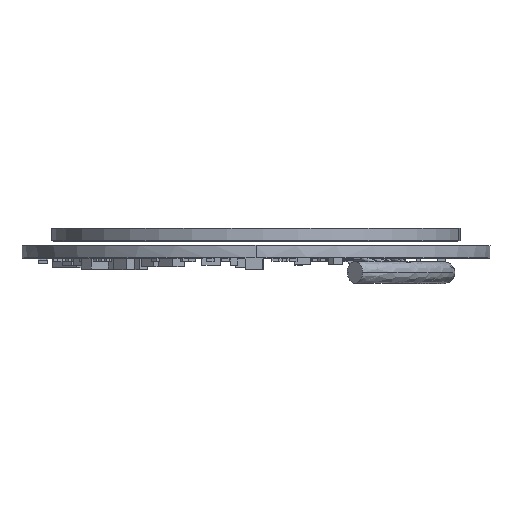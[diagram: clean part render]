
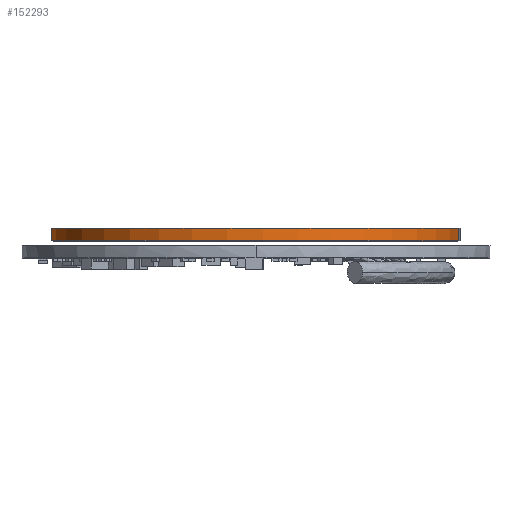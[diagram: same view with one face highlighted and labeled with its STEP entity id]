
A CAD part, top view. The second image highlights one B-rep face of the part: STEP entity #152293.
In plain terms, the highlighted cylindrical face has radius 26.1 mm (diameter 52.2 mm), a partial arc.
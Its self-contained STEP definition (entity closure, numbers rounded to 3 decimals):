
#8117 = DIRECTION ( 'NONE',  ( 0., -1., 0. ) ) ;
#8213 = CARTESIAN_POINT ( 'NONE',  ( 0., 1.57, 0. ) ) ;
#14639 = CARTESIAN_POINT ( 'NONE',  ( 0., 0., 26.1 ) ) ;
#19078 = AXIS2_PLACEMENT_3D ( 'NONE', #8213, #150747, #102194 ) ;
#19419 = DIRECTION ( 'NONE',  ( 0., -1., 0. ) ) ;
#19777 = LINE ( 'NONE', #115302, #136667 ) ;
#21599 = CARTESIAN_POINT ( 'NONE',  ( 0., 1.57, 26.1 ) ) ;
#36297 = VECTOR ( 'NONE', #47792, 1000. ) ;
#39674 = ORIENTED_EDGE ( 'NONE', *, *, #152048, .F. ) ;
#42947 = CYLINDRICAL_SURFACE ( 'NONE', #108830, 26.1 ) ;
#43032 = CARTESIAN_POINT ( 'NONE',  ( 0., 1.57, -26.1 ) ) ;
#45477 = CARTESIAN_POINT ( 'NONE',  ( 0., 1.57, -26.1 ) ) ;
#47792 = DIRECTION ( 'NONE',  ( 0., -1., 0. ) ) ;
#49218 = DIRECTION ( 'NONE',  ( 0., 0., 1. ) ) ;
#54764 = FACE_OUTER_BOUND ( 'NONE', #68754, .T. ) ;
#56201 = AXIS2_PLACEMENT_3D ( 'NONE', #98484, #108662, #49218 ) ;
#60587 = EDGE_CURVE ( 'NONE', #127004, #79164, #19777, .T. ) ;
#68183 = VERTEX_POINT ( 'NONE', #112914 ) ;
#68754 = EDGE_LOOP ( 'NONE', ( #70766, #137943, #133050, #39674 ) ) ;
#69727 = LINE ( 'NONE', #45477, #36297 ) ;
#70766 = ORIENTED_EDGE ( 'NONE', *, *, #105523, .F. ) ;
#79164 = VERTEX_POINT ( 'NONE', #14639 ) ;
#90800 = CARTESIAN_POINT ( 'NONE',  ( 0., 1.57, 0. ) ) ;
#98484 = CARTESIAN_POINT ( 'NONE',  ( 0., 0., 0. ) ) ;
#99068 = VERTEX_POINT ( 'NONE', #43032 ) ;
#102194 = DIRECTION ( 'NONE',  ( 0., 0., 1. ) ) ;
#103768 = EDGE_CURVE ( 'NONE', #79164, #68183, #131153, .T. ) ;
#105523 = EDGE_CURVE ( 'NONE', #127004, #99068, #111568, .T. ) ;
#108662 = DIRECTION ( 'NONE',  ( 0., 1., 0. ) ) ;
#108830 = AXIS2_PLACEMENT_3D ( 'NONE', #90800, #19419, #151037 ) ;
#111568 = CIRCLE ( 'NONE', #19078, 26.1 ) ;
#112914 = CARTESIAN_POINT ( 'NONE',  ( 0., 0., -26.1 ) ) ;
#115302 = CARTESIAN_POINT ( 'NONE',  ( 0., 1.57, 26.1 ) ) ;
#127004 = VERTEX_POINT ( 'NONE', #21599 ) ;
#131153 = CIRCLE ( 'NONE', #56201, 26.1 ) ;
#133050 = ORIENTED_EDGE ( 'NONE', *, *, #103768, .T. ) ;
#136667 = VECTOR ( 'NONE', #8117, 1000. ) ;
#137943 = ORIENTED_EDGE ( 'NONE', *, *, #60587, .T. ) ;
#150747 = DIRECTION ( 'NONE',  ( 0., 1., 0. ) ) ;
#151037 = DIRECTION ( 'NONE',  ( 0., 0., -1. ) ) ;
#152048 = EDGE_CURVE ( 'NONE', #99068, #68183, #69727, .T. ) ;
#152293 = ADVANCED_FACE ( 'NONE', ( #54764 ), #42947, .T. ) ;
